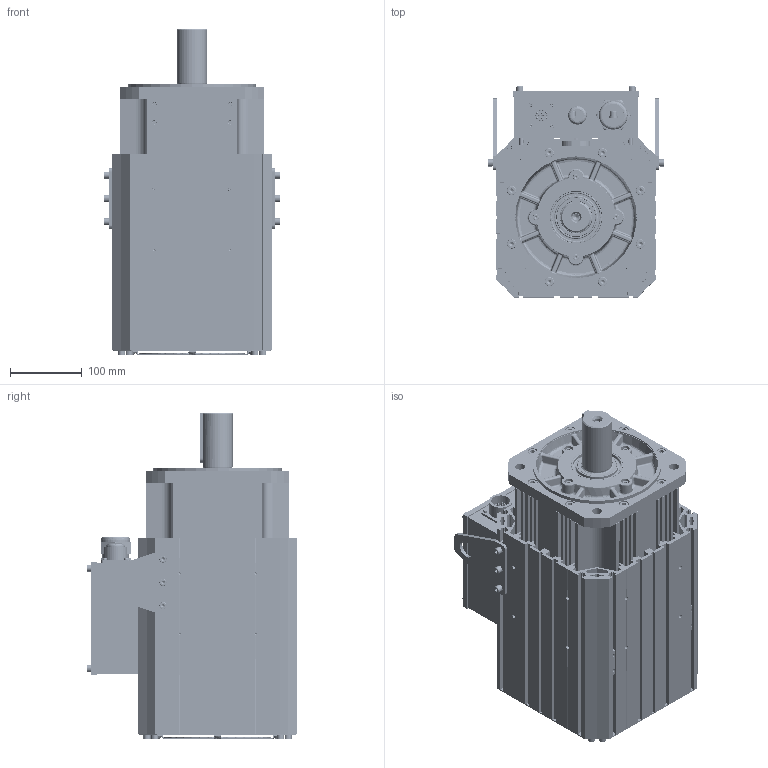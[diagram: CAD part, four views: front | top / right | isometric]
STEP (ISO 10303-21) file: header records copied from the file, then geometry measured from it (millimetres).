
FILE_DESCRIPTION (( 'STEP AP214' ), '1' );
FILE_NAME ('VM7-M20D-01115-D1FN.STEP', '2022-04-02T01:59:20', ( '' ), ( '' ), 'SwSTEP 2.0', 'SolidWorks 2014', '' );
FILE_SCHEMA (( 'AUTOMOTIVE_DESIGN' ));
Length unit declared in the file: millimetre
Products named in the file (3): VM7-M20D-01115-D1FN; 俋褲ㄗVM7-M20Dㄘ; 翋极ㄗVM7-M20Dㄘ
Assembly tree (2 placements, depth 2):
  VM7-M20D-01115-D1FN
    翋极ㄗVM7-M20Dㄘ
    俋褲ㄗVM7-M20Dㄘ
Bounding box: 246.2 x 294.7 x 457 mm (x, y, z)
Volume: 2134379.2 mm3; surface area: 2233169.1 mm2
Topology: 45 solids, 183 shells, 5660 faces, 14472 edges, 9117 vertices
Faces by surface type: plane 3221, cylinder 1323, cone 587, bspline 529
Entity records: 187119 total; most frequent: CARTESIAN_POINT 50233, ORIENTED_EDGE 28442, DIRECTION 27688, EDGE_CURVE 14230, AXIS2_PLACEMENT_3D 9527, VERTEX_POINT 9117, VECTOR 8634, LINE 8634
